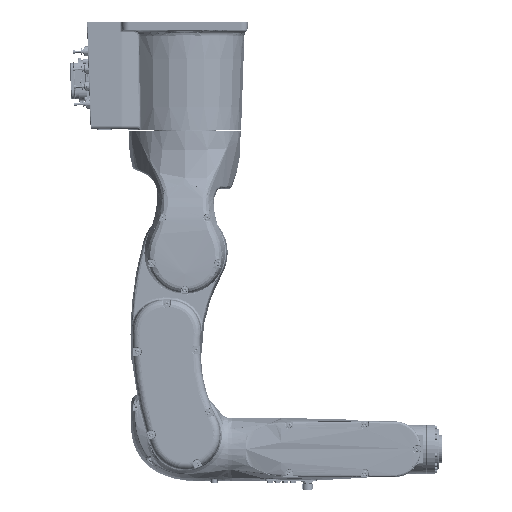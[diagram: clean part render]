
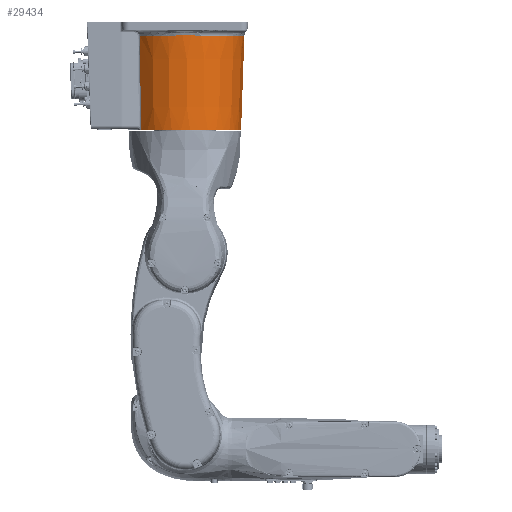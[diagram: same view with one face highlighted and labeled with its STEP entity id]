
A CAD part, left-side view. The second image highlights one B-rep face of the part: STEP entity #29434.
In plain terms, the highlighted conical face has half-angle 2 degrees and reference radius 85.902 mm.
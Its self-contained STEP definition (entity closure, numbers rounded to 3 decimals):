
#29434=ADVANCED_FACE('NONE',(#63527),#63528,.T.);
#63527=FACE_OUTER_BOUND('',#208825,.T.);
#63528=CONICAL_SURFACE('',#208826,85.902,0.035);
#208825=EDGE_LOOP('',(#281995,#281996,#281997,#281998,#281999,#282000,#282001));
#208826=AXIS2_PLACEMENT_3D('',#282002,#282003,#282004);
#281995=ORIENTED_EDGE('',*,*,#364888,.F.);
#281996=ORIENTED_EDGE('',*,*,#364889,.T.);
#281997=ORIENTED_EDGE('',*,*,#364890,.T.);
#281998=ORIENTED_EDGE('',*,*,#364891,.T.);
#281999=ORIENTED_EDGE('',*,*,#364892,.T.);
#282000=ORIENTED_EDGE('',*,*,#364893,.T.);
#282001=ORIENTED_EDGE('',*,*,#364894,.F.);
#282002=CARTESIAN_POINT('',(0.0,0.0,0.0));
#282003=DIRECTION('',(-0.0,-0.0,1.0));
#282004=DIRECTION('',(0.,1.0,0.0));
#364888=EDGE_CURVE('',#428662,#428663,#428664,.T.);
#364889=EDGE_CURVE('NONE',#428662,#428665,#428666,.T.);
#364890=EDGE_CURVE('NONE',#428665,#428667,#428668,.T.);
#364891=EDGE_CURVE('NONE',#428667,#428669,#428670,.T.);
#364892=EDGE_CURVE('NONE',#428669,#428671,#428672,.T.);
#364893=EDGE_CURVE('NONE',#428671,#428673,#428674,.T.);
#364894=EDGE_CURVE('NONE',#428663,#428673,#428675,.T.);
#428662=VERTEX_POINT('',#580612);
#428663=VERTEX_POINT('',#580613);
#428664=LINE('',#580614,#580615);
#428665=VERTEX_POINT('NONE',#580616);
#428666=B_SPLINE_CURVE_WITH_KNOTS('',3,(#580617,#580618,#580619,#580620,#580621,#580622,#580623,#580624,#580625,#580626,#580627,#580628,#580629,#580630,#580631,#580632,#580633,#580634,#580635,#580636),.UNSPECIFIED.,.F.,.F.,(4,2,2,2,2,2,2,2,2,4),(0.0,0.003,0.006,0.012,0.018,0.024,0.03,0.036,0.042,0.048),.UNSPECIFIED.);
#428667=VERTEX_POINT('NONE',#580637);
#428668=CIRCLE('',#580638,85.213);
#428669=VERTEX_POINT('NONE',#580639);
#428670=B_SPLINE_CURVE_WITH_KNOTS('',3,(#580640,#580641,#580642,#580643,#580644,#580645,#580646,#580647,#580648,#580649,#580650,#580651,#580652,#580653,#580654,#580655,#580656,#580657,#580658,#580659),.UNSPECIFIED.,.F.,.F.,(4,2,2,2,2,2,2,2,2,4),(0.0,0.003,0.006,0.012,0.018,0.024,0.03,0.036,0.042,0.048),.UNSPECIFIED.);
#428671=VERTEX_POINT('NONE',#580660);
#428672=CIRCLE('',#580661,85.213);
#428673=VERTEX_POINT('NONE',#580662);
#428674=B_SPLINE_CURVE_WITH_KNOTS('',3,(#580663,#580664,#580665,#580666),.UNSPECIFIED.,.F.,.F.,(4,4),(0.,0.135),.UNSPECIFIED.);
#428675=CIRCLE('',#580667,80.489);
#580612=CARTESIAN_POINT('',(0.,-85.244,-18.835));
#580613=CARTESIAN_POINT('',(0.,-80.489,-155.0));
#580614=CARTESIAN_POINT('',(0.,-85.902,0.0));
#580615=VECTOR('',#667121,1.0);
#580616=CARTESIAN_POINT('',(-23.541,-81.897,-19.721));
#580617=CARTESIAN_POINT('',(23.541,-81.897,-19.721));
#580618=CARTESIAN_POINT('',(22.581,-82.173,-19.721));
#580619=CARTESIAN_POINT('',(21.617,-82.433,-19.704));
#580620=CARTESIAN_POINT('',(19.68,-82.918,-19.647));
#580621=CARTESIAN_POINT('',(18.707,-83.145,-19.607));
#580622=CARTESIAN_POINT('',(15.788,-83.771,-19.468));
#580623=CARTESIAN_POINT('',(13.837,-84.119,-19.35));
#580624=CARTESIAN_POINT('',(9.923,-84.678,-19.128));
#580625=CARTESIAN_POINT('',(7.96,-84.888,-19.024));
#580626=CARTESIAN_POINT('',(4.02,-85.171,-18.878));
#580627=CARTESIAN_POINT('',(2.044,-85.243,-18.836));
#580628=CARTESIAN_POINT('',(-1.923,-85.246,-18.834));
#580629=CARTESIAN_POINT('',(-3.915,-85.176,-18.875));
#580630=CARTESIAN_POINT('',(-7.907,-84.894,-19.021));
#580631=CARTESIAN_POINT('',(-9.89,-84.682,-19.126));
#580632=CARTESIAN_POINT('',(-13.829,-84.12,-19.35));
#580633=CARTESIAN_POINT('',(-15.787,-83.771,-19.468));
#580634=CARTESIAN_POINT('',(-19.679,-82.936,-19.653));
#580635=CARTESIAN_POINT('',(-21.615,-82.451,-19.721));
#580636=CARTESIAN_POINT('',(-23.541,-81.897,-19.721));
#580637=CARTESIAN_POINT('',(-81.897,-23.541,-19.721));
#580638=AXIS2_PLACEMENT_3D('',#667122,#667123,#667124);
#580639=CARTESIAN_POINT('',(-81.897,23.541,-19.721));
#580640=CARTESIAN_POINT('',(-81.897,-23.541,-19.721));
#580641=CARTESIAN_POINT('',(-82.173,-22.581,-19.721));
#580642=CARTESIAN_POINT('',(-82.433,-21.617,-19.704));
#580643=CARTESIAN_POINT('',(-82.918,-19.68,-19.647));
#580644=CARTESIAN_POINT('',(-83.145,-18.707,-19.607));
#580645=CARTESIAN_POINT('',(-83.771,-15.788,-19.468));
#580646=CARTESIAN_POINT('',(-84.119,-13.837,-19.35));
#580647=CARTESIAN_POINT('',(-84.678,-9.923,-19.128));
#580648=CARTESIAN_POINT('',(-84.888,-7.96,-19.024));
#580649=CARTESIAN_POINT('',(-85.171,-4.02,-18.878));
#580650=CARTESIAN_POINT('',(-85.243,-2.044,-18.836));
#580651=CARTESIAN_POINT('',(-85.246,1.923,-18.834));
#580652=CARTESIAN_POINT('',(-85.176,3.915,-18.875));
#580653=CARTESIAN_POINT('',(-84.894,7.907,-19.021));
#580654=CARTESIAN_POINT('',(-84.682,9.89,-19.126));
#580655=CARTESIAN_POINT('',(-84.12,13.829,-19.35));
#580656=CARTESIAN_POINT('',(-83.771,15.787,-19.468));
#580657=CARTESIAN_POINT('',(-82.936,19.679,-19.653));
#580658=CARTESIAN_POINT('',(-82.451,21.615,-19.721));
#580659=CARTESIAN_POINT('',(-81.897,23.541,-19.721));
#580660=CARTESIAN_POINT('',(-55.904,64.312,-19.721));
#580661=AXIS2_PLACEMENT_3D('',#667125,#667126,#667127);
#580662=CARTESIAN_POINT('',(-50.707,62.509,-155.0));
#580663=CARTESIAN_POINT('',(-55.904,64.312,-19.721));
#580664=CARTESIAN_POINT('',(-54.175,63.729,-64.814));
#580665=CARTESIAN_POINT('',(-52.442,63.129,-109.907));
#580666=CARTESIAN_POINT('',(-50.707,62.509,-155.0));
#580667=AXIS2_PLACEMENT_3D('',#667128,#667129,#667130);
#667121=DIRECTION('',(0.,0.035,-0.999));
#667122=CARTESIAN_POINT('',(0.0,0.0,-19.721));
#667123=DIRECTION('',(-0.0,0.0,-1.0));
#667124=DIRECTION('',(0.,-1.0,0.0));
#667125=CARTESIAN_POINT('',(0.0,0.0,-19.721));
#667126=DIRECTION('',(-0.0,0.0,-1.0));
#667127=DIRECTION('',(0.,-1.0,0.0));
#667128=CARTESIAN_POINT('',(0.0,0.0,-155.0));
#667129=DIRECTION('',(0.0,0.0,-1.0));
#667130=DIRECTION('',(0.,1.0,0.0));
